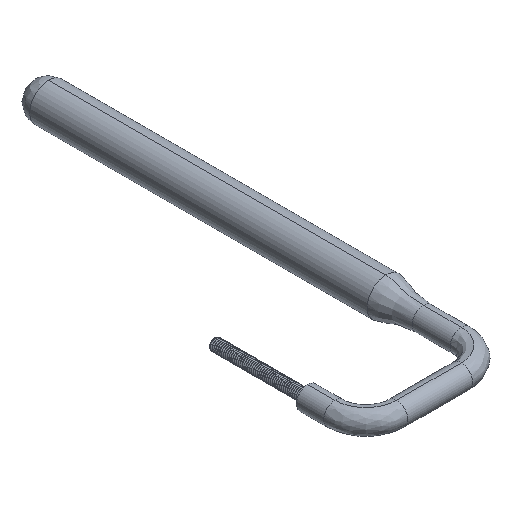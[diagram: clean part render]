
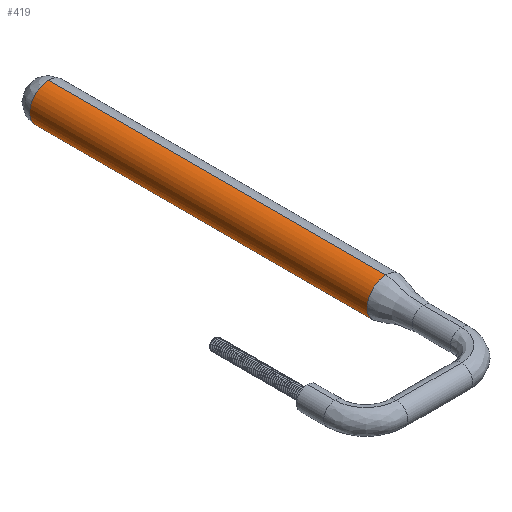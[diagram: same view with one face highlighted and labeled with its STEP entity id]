
A CAD part, isometric view. The second image highlights one B-rep face of the part: STEP entity #419.
In plain terms, the highlighted cylindrical face has radius 10 mm (diameter 20 mm), a partial arc.
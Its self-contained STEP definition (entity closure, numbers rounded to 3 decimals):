
#419=ADVANCED_FACE('',(#842),#5997,.T.);
#842=FACE_OUTER_BOUND('',#1265,.T.);
#1265=EDGE_LOOP('',(#2986,#2987,#2988,#2989));
#2986=ORIENTED_EDGE('',*,*,#3955,.F.);
#2987=ORIENTED_EDGE('',*,*,#3918,.F.);
#2988=ORIENTED_EDGE('',*,*,#3923,.T.);
#2989=ORIENTED_EDGE('',*,*,#3922,.F.);
#3918=EDGE_CURVE('',#5876,#5877,#4528,.T.);
#3922=EDGE_CURVE('',#5879,#5878,#4530,.T.);
#3923=EDGE_CURVE('',#5876,#5878,#3965,.T.);
#3955=EDGE_CURVE('',#5877,#5879,#3978,.T.);
#3965=(
BOUNDED_CURVE()
B_SPLINE_CURVE(1,(#15881,#15882),.UNSPECIFIED.,.F.,.F.)
B_SPLINE_CURVE_WITH_KNOTS((2,2),(0.,180.),.UNSPECIFIED.)
CURVE()
GEOMETRIC_REPRESENTATION_ITEM()
RATIONAL_B_SPLINE_CURVE((1.,1.))
REPRESENTATION_ITEM('')
);
#3978=(
BOUNDED_CURVE()
B_SPLINE_CURVE(1,(#16010,#16011),.UNSPECIFIED.,.F.,.F.)
B_SPLINE_CURVE_WITH_KNOTS((2,2),(0.,180.),.UNSPECIFIED.)
CURVE()
GEOMETRIC_REPRESENTATION_ITEM()
RATIONAL_B_SPLINE_CURVE((1.,1.))
REPRESENTATION_ITEM('')
);
#4528=TRIMMED_CURVE($,#5098,(#15865),(#15866),.T.,.CARTESIAN.);
#4530=TRIMMED_CURVE($,#5100,(#15879),(#15880),.T.,.CARTESIAN.);
#5098=CIRCLE('',#7067,10.);
#5100=CIRCLE('',#7069,10.);
#5876=VERTEX_POINT('',#13594);
#5877=VERTEX_POINT('',#13595);
#5878=VERTEX_POINT('',#13596);
#5879=VERTEX_POINT('',#13597);
#5997=CYLINDRICAL_SURFACE('',#6509,10.);
#6509=AXIS2_PLACEMENT_3D('',#13032,#7193,$);
#7067=AXIS2_PLACEMENT_3D($,#15864,#8299,#8300);
#7069=AXIS2_PLACEMENT_3D($,#15878,#8303,#8304);
#7193=DIRECTION('',(0.,1.,0.));
#8299=DIRECTION('',(0.,1.,0.));
#8300=DIRECTION('',(0.,0.,-1.));
#8303=DIRECTION('',(0.,-1.,0.));
#8304=DIRECTION('',(0.,0.,1.));
#13032=CARTESIAN_POINT('',(31.736,26.367,0.));
#13594=CARTESIAN_POINT('',(31.736,116.367,-10.));
#13595=CARTESIAN_POINT('',(31.736,116.367,10.));
#13596=CARTESIAN_POINT('',(31.736,-63.633,-10.));
#13597=CARTESIAN_POINT('',(31.736,-63.633,10.));
#15864=CARTESIAN_POINT('',(31.736,116.367,0.));
#15865=CARTESIAN_POINT('',(31.736,116.367,-10.));
#15866=CARTESIAN_POINT('',(31.736,116.367,10.));
#15878=CARTESIAN_POINT('',(31.736,-63.633,0.));
#15879=CARTESIAN_POINT('',(31.736,-63.633,10.));
#15880=CARTESIAN_POINT('',(31.736,-63.633,-10.));
#15881=CARTESIAN_POINT('',(31.736,116.367,-10.));
#15882=CARTESIAN_POINT('',(31.736,-63.633,-10.));
#16010=CARTESIAN_POINT('',(31.736,116.367,10.));
#16011=CARTESIAN_POINT('',(31.736,-63.633,10.));
